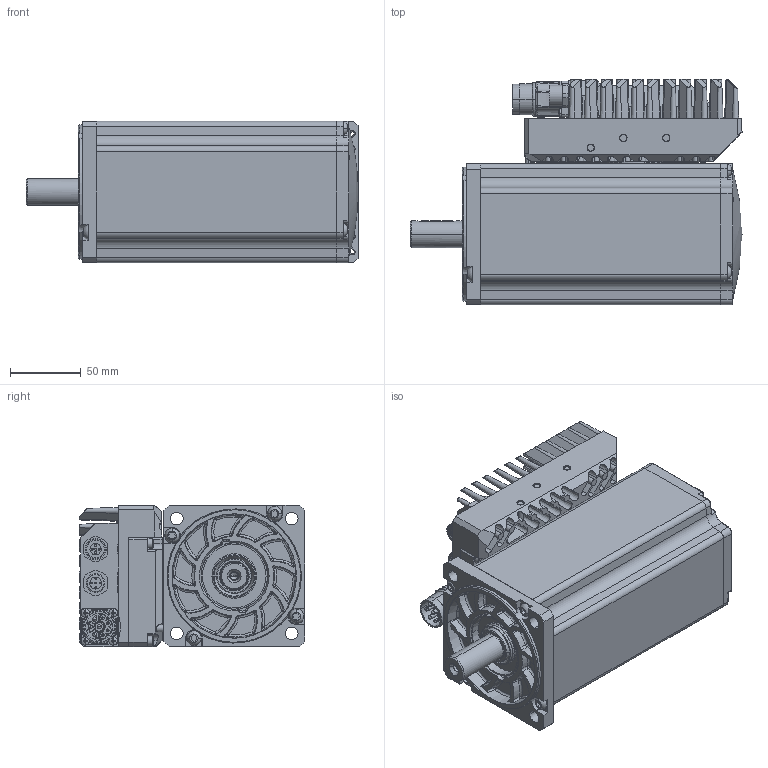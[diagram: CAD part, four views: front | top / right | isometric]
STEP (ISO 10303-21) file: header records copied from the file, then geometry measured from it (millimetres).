
FILE_DESCRIPTION((''),'2;1');
FILE_NAME('60783N-0_SW0002','2015-09-09T',('hegenwang'),(''),'PRO/ENGINEER BY PARAMETRIC TECHNOLOGY CORPORATION, 2010430','PRO/ENGINEER BY PARAMETRIC TECHNOLOGY CORPORATION, 2010430','');
FILE_SCHEMA(('AUTOMOTIVE_DESIGN_CC2 { 1 2 10303 214 -1 1 5 2 }'));
Products named in the file (1): 60783N-0_SW0002
Bounding box: 235 x 159.8 x 100 mm (x, y, z)
Surface area: 233476.7 mm2 (no closed solid volume)
Topology: 0 solids, 68 shells, 1822 faces, 5364 edges, 3663 vertices
Faces by surface type: plane 818, cone 385, cylinder 323, torus 95, bspline 95, sphere 68, extrusion 36, revolution 2
Entity records: 98114 total; most frequent: CARTESIAN_POINT 24712, DIRECTION 9734, ORIENTED_EDGE 9620, PRESENTATION_STYLE_ASSIGNMENT 6668, STYLED_ITEM 5396, CURVE_STYLE 5358, EDGE_CURVE 5324, VERTEX_POINT 3663
